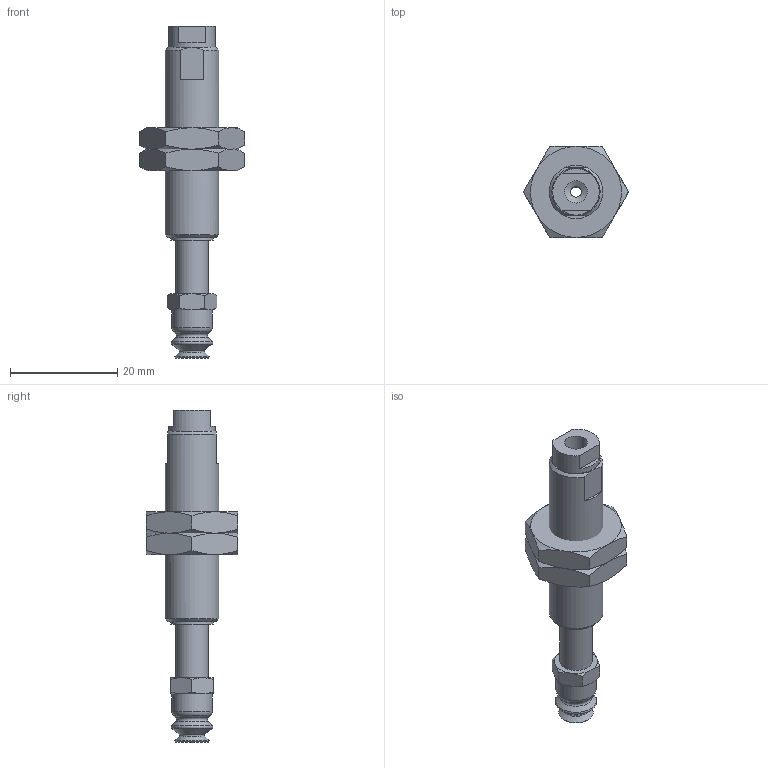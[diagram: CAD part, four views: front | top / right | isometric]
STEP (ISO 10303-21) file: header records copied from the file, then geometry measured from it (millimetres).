
FILE_DESCRIPTION(('STEP AP203'),'1');
FILE_NAME('-LB.stp','2025-04-24T07:17:38',(' '),(' '),'Spatial InterOp 3D',' ',' ');
FILE_SCHEMA(('CONFIG_CONTROL_DESIGN'));
Length unit declared in the file: millimetre
Products named in the file (7): BNABPJTH-6-10-※-LB; __; BODY; NUT; BPJG-6-_; PS-6-J-M- body
Assembly tree (6 placements, depth 2):
  BNABPJTH-6-10-※-LB
    __
    BODY
    NUT
    NUT
    BPJG-6-_
    PS-6-J-M- body
Bounding box: 19.63 x 17 x 62 mm (x, y, z)
Volume: 4959.8 mm3; surface area: 4231.7 mm2
Topology: 6 solids, 6 shells, 120 faces, 256 edges, 153 vertices
Faces by surface type: cone 50, plane 43, cylinder 17, torus 10
Full cylindrical faces by diameter (mm): 2 x2, 3.64 x1, 4 x2, 4.2 x2, 5 x1, 6 x3, 7.5 x1, 8 x1, 8.7 x1, 9 x2, 10 x1
Entity records: 3368 total; most frequent: CARTESIAN_POINT 729, DIRECTION 480, ORIENTED_EDGE 410, AXIS2_PLACEMENT_3D 224, EDGE_CURVE 205, EDGE_LOOP 176, FACE_OUTER_BOUND 147, VERTEX_POINT 141
